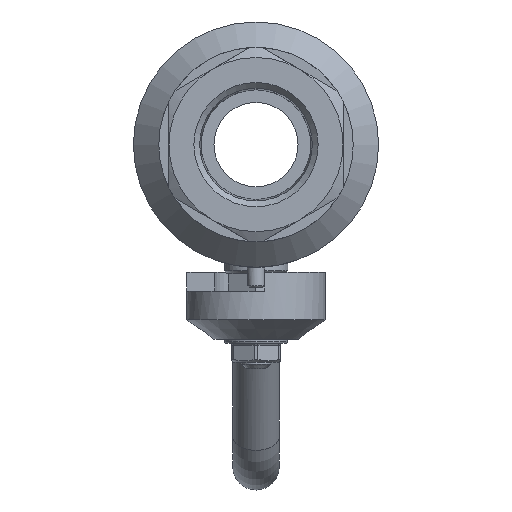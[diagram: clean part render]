
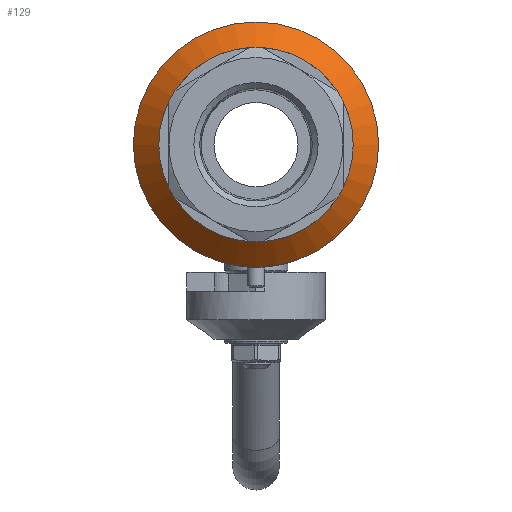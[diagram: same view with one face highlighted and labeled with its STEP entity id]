
A CAD part, left-side view. The second image highlights one B-rep face of the part: STEP entity #129.
In plain terms, the highlighted conical face has half-angle 45 degrees and reference radius 37.875 mm.
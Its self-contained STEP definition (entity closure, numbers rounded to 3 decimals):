
#129=ADVANCED_FACE('',(#1166),#1168,.T.);
#1166=FACE_OUTER_BOUND('',#1167,.T.);
#1167=EDGE_LOOP('',(#2328,#2329,#2330,#2331,#2332));
#1168=CONICAL_SURFACE('',#1169,37.875,0.785);
#1169=AXIS2_PLACEMENT_3D('',#1170,#1171,#1172);
#1170=CARTESIAN_POINT('',(-34.625,0.,0.));
#1171=DIRECTION('',(1.,0.,0.));
#1172=DIRECTION('',(0.,1.,0.));
#2328=ORIENTED_EDGE('',*,*,#3553,.F.);
#2329=ORIENTED_EDGE('',*,*,#3554,.T.);
#2330=ORIENTED_EDGE('',*,*,#3523,.T.);
#2331=ORIENTED_EDGE('',*,*,#3554,.F.);
#2332=ORIENTED_EDGE('',*,*,#3555,.F.);
#3523=EDGE_CURVE('',#3887,#3887,#3889,.T.);
#3553=EDGE_CURVE('',#3928,#3929,#3930,.T.);
#3554=EDGE_CURVE('',#3928,#3887,#3931,.T.);
#3555=EDGE_CURVE('',#3929,#3928,#3932,.T.);
#3887=VERTEX_POINT('',#4982);
#3889=CIRCLE('',#4986,42.25);
#3928=VERTEX_POINT('',#5353);
#3929=VERTEX_POINT('',#5354);
#3930=CIRCLE('',#5355,33.5);
#3931=LINE('',#5359,#5360);
#3932=CIRCLE('',#5362,33.5);
#4982=CARTESIAN_POINT('',(-30.25,-42.25,0.));
#4986=AXIS2_PLACEMENT_3D('',#4987,#4988,#4989);
#4987=CARTESIAN_POINT('',(-30.25,0.,0.));
#4988=DIRECTION('',(-1.,0.,0.));
#4989=DIRECTION('',(0.,-1.,0.));
#5353=CARTESIAN_POINT('',(-39.,-33.5,0.));
#5354=CARTESIAN_POINT('',(-39.,0.,-33.5));
#5355=AXIS2_PLACEMENT_3D('',#5356,#5357,#5358);
#5356=CARTESIAN_POINT('',(-39.,0.,0.));
#5357=DIRECTION('',(-1.,0.,0.));
#5358=DIRECTION('',(0.,-1.,0.));
#5359=CARTESIAN_POINT('',(-39.,-33.5,0.));
#5360=VECTOR('',#5361,1.);
#5361=DIRECTION('',(0.707,-0.707,0.));
#5362=AXIS2_PLACEMENT_3D('',#5363,#5364,#5365);
#5363=CARTESIAN_POINT('',(-39.,0.,0.));
#5364=DIRECTION('',(-1.,0.,0.));
#5365=DIRECTION('',(0.,0.,-1.));
